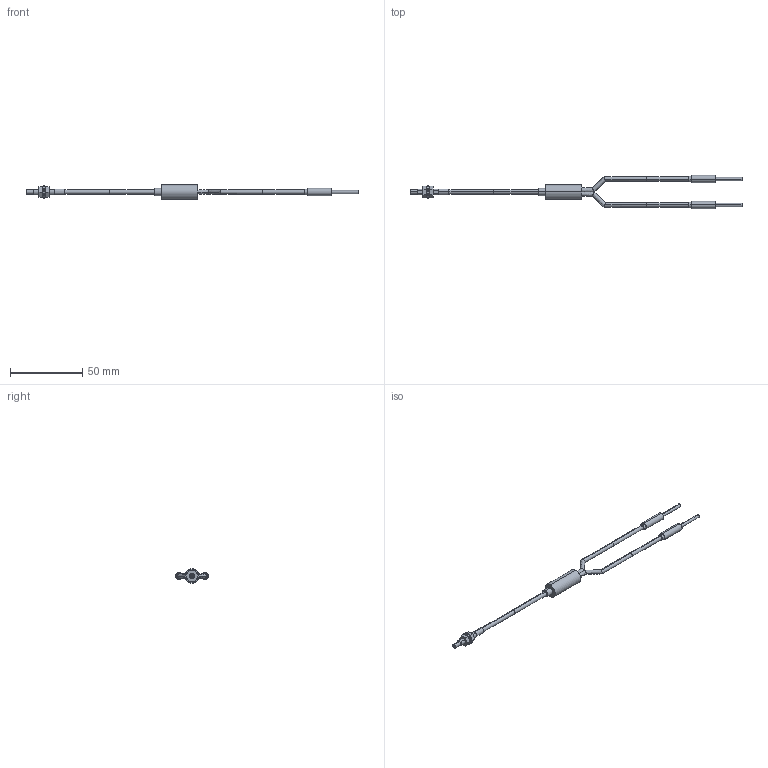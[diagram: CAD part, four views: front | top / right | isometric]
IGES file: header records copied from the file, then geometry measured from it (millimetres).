
Start section: SolidWorks IGES FILE using analytic representation for surfaces
Global section: file name: C:\Documents and Settings\yk0651\デスクトップ\3D_catalog_050929\0_IGES\FD-H20-21.IGS; native system: SolidWorks 2004 by SolidWorks Corporation; preprocessor: Version 5.3; author: yk0651; date: 051002.174739; units: millimetre
Bounding box: 230 x 23 x 10 mm (x, y, z)
Volume: 4876.6 mm3; surface area: 4741 mm2
Topology: 9 solids, 9 shells, 94 faces, 188 edges, 124 vertices
Faces by surface type: revolution 51, plane 43
